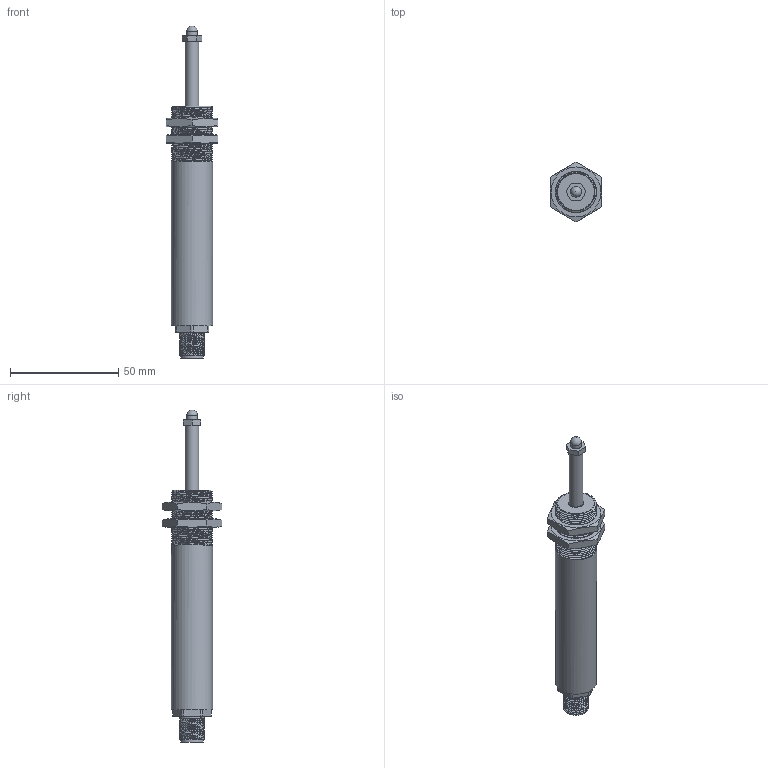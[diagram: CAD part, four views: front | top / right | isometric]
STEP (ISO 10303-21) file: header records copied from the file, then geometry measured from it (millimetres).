
FILE_DESCRIPTION(/* description */ (''),/* implementation_level */ '2;1');
FILE_NAME(/* name */ 'ILPS-18S-025-A-01-YY-Z.stp',/* time_stamp */ '2026-01-27T15:28:32-05:00',/* author */ ('wingm'),/* organization */ (''),/* preprocessor_version */ 'ST-DEVELOPER v20.1',/* originating_system */ 'Autodesk Inventor 2026',/* authorisation */ '');
FILE_SCHEMA (('AUTOMOTIVE_DESIGN { 1 0 10303 214 3 1 1 }'));
Length unit declared in the file: inch
Products named in the file (9): Assembly1; Body; End Cap; Shaft; Lining; Hex Nut; End Cap_1; M12 Connector; #11136
Assembly tree (9 placements, depth 2):
  Assembly1
    Body
    End Cap
    Shaft
    Lining
    Hex Nut  x2
    End Cap_1
    M12 Connector
    #11136
Bounding box: 24 x 27.71 x 153.7 mm (x, y, z)
Volume: 13020.6 mm3; surface area: 22851.1 mm2
Topology: 18 solids, 18 shells, 167 faces, 383 edges, 252 vertices
Faces by surface type: cylinder 73, plane 64, cone 12, bspline 12, sphere 6
Full cylindrical faces by diameter (mm): 1.05 x5, 1.905 x1, 2.845 x3, 5.08 x1, 6.35 x2, 6.858 x2, 8 x2, 10.6 x2, 12 x10, 13.185 x1, 17.069 x3, 19.05 x28
Entity records: 11215 total; most frequent: CARTESIAN_POINT 7633, ORIENTED_EDGE 660, DIRECTION 618, EDGE_CURVE 330, AXIS2_PLACEMENT_3D 245, VERTEX_POINT 222, EDGE_LOOP 166, FACE_OUTER_BOUND 148
